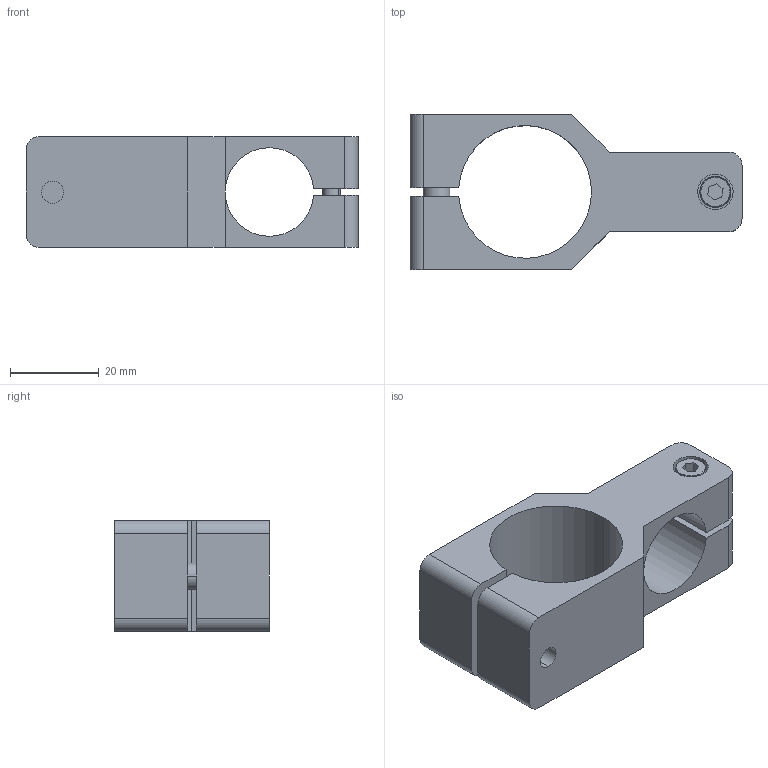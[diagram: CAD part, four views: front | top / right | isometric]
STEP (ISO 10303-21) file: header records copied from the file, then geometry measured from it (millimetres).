
FILE_DESCRIPTION (( 'STEP AP214' ), '1' );
FILE_NAME ('SCD-3020T.STEP', '2023-01-12T07:45:03', ( 'Windows User' ), ( 'P R C' ), 'SwSTEP 2.0', 'SolidWorks 2019', '' );
FILE_SCHEMA (( 'AUTOMOTIVE_DESIGN' ));
Length unit declared in the file: millimetre
Products named in the file (6): SCD-3020T; PTS-M6; SCD-3020; PTC-M4L18; PTC-M6L16; PTS-M4
Assembly tree (5 placements, depth 2):
  SCD-3020T
    SCD-3020
    PTC-M4L18
    PTC-M6L16
    PTS-M4
    PTS-M6
Bounding box: 75 x 35 x 25 mm (x, y, z)
Volume: 26125.4 mm3; surface area: 13516.2 mm2
Topology: 5 solids, 5 shells, 412 faces, 1188 edges, 788 vertices
Faces by surface type: plane 360, cylinder 40, cone 12
Entity records: 13942 total; most frequent: DIRECTION 2444, CARTESIAN_POINT 2396, ORIENTED_EDGE 2376, EDGE_CURVE 1188, AXIS2_PLACEMENT_3D 836, VERTEX_POINT 788, VECTOR 772, LINE 772
